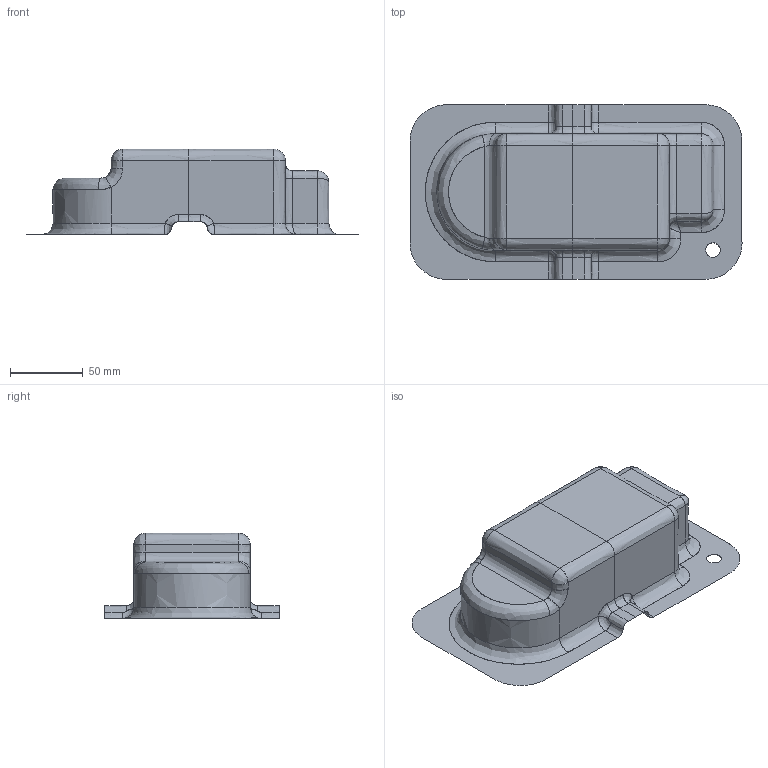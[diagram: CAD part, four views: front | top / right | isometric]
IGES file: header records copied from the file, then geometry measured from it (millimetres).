
Start section: START IGES DATA FILE
Global section: file name: tailor_weld_blank.igs; native system: DYNAFORM VER.3.1,DYNAFORM IGES TRANSLATOR, ENGINEERING TECHNOLOGY ASSOCIATES, INC.; preprocessor: 980406; date: 051128.220325; units: millimetre
Bounding box: 228.52 x 120 x 59 mm (x, y, z)
Surface area: 49819.1 mm2 (no closed solid volume)
Topology: 0 solids, 0 shells, 82 faces, 1082 edges, 1100 vertices
Faces by surface type: bspline 82
